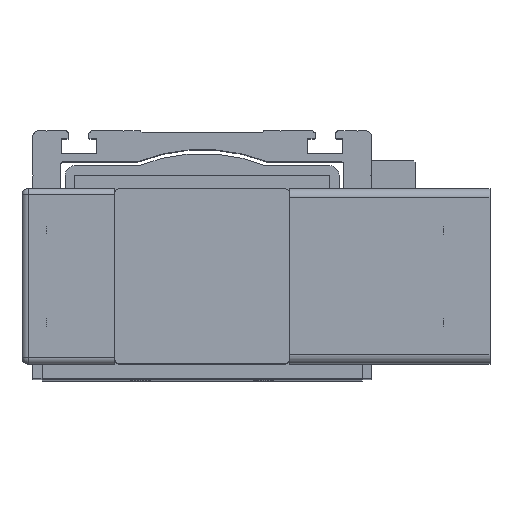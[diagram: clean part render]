
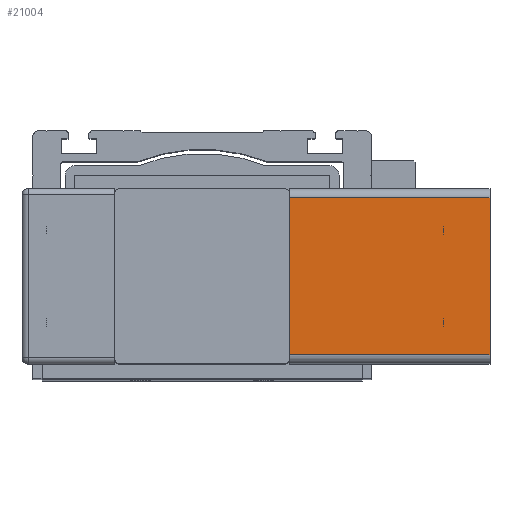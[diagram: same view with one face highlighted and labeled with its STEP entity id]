
A CAD part, top view. The second image highlights one B-rep face of the part: STEP entity #21004.
In plain terms, the highlighted planar face has unit normal (0, 0, 1) as drawn and (1, 0, 0) by its records, which use the part's own axes.
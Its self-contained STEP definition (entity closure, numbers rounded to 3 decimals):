
#20937=CARTESIAN_POINT('',(57.0,54.0,-65.0));
#20938=VERTEX_POINT('',#20937);
#20956=CARTESIAN_POINT('',(57.0,54.0,0.0));
#20957=VERTEX_POINT('',#20956);
#20965=CARTESIAN_POINT('',(57.0,54.0,0.0));
#20966=DIRECTION('',(0.0,0.0,-1.0));
#20967=VECTOR('',#20966,65.0);
#20968=LINE('',#20965,#20967);
#20969=EDGE_CURVE('',#20957,#20938,#20968,.T.);
#20974=CARTESIAN_POINT('',(57.0,0.0,0.0));
#20975=DIRECTION('',(1.0,0.0,0.0));
#20976=DIRECTION('',(0.0,0.0,-1.0));
#20977=AXIS2_PLACEMENT_3D('',#20974,#20975,#20976);
#20978=PLANE('',#20977);
#20979=ORIENTED_EDGE('',*,*,#20969,.F.);
#20980=CARTESIAN_POINT('',(57.0,3.,0.0));
#20981=VERTEX_POINT('',#20980);
#20982=CARTESIAN_POINT('',(57.0,3.,0.0));
#20983=DIRECTION('',(0.0,1.0,0.0));
#20984=VECTOR('',#20983,51.0);
#20985=LINE('',#20982,#20984);
#20986=EDGE_CURVE('',#20981,#20957,#20985,.T.);
#20987=ORIENTED_EDGE('',*,*,#20986,.F.);
#20988=CARTESIAN_POINT('',(57.0,3.,-65.0));
#20989=VERTEX_POINT('',#20988);
#20990=CARTESIAN_POINT('',(57.0,3.,-65.0));
#20991=DIRECTION('',(0.0,0.0,1.0));
#20992=VECTOR('',#20991,65.0);
#20993=LINE('',#20990,#20992);
#20994=EDGE_CURVE('',#20989,#20981,#20993,.T.);
#20995=ORIENTED_EDGE('',*,*,#20994,.F.);
#20996=CARTESIAN_POINT('',(57.0,3.,-65.0));
#20997=DIRECTION('',(0.0,1.0,0.0));
#20998=VECTOR('',#20997,51.0);
#20999=LINE('',#20996,#20998);
#21000=EDGE_CURVE('',#20989,#20938,#20999,.T.);
#21001=ORIENTED_EDGE('',*,*,#21000,.T.);
#21002=EDGE_LOOP('',(#20979,#20987,#20995,#21001));
#21003=FACE_OUTER_BOUND('',#21002,.T.);
#21004=ADVANCED_FACE('',(#21003),#20978,.T.);
